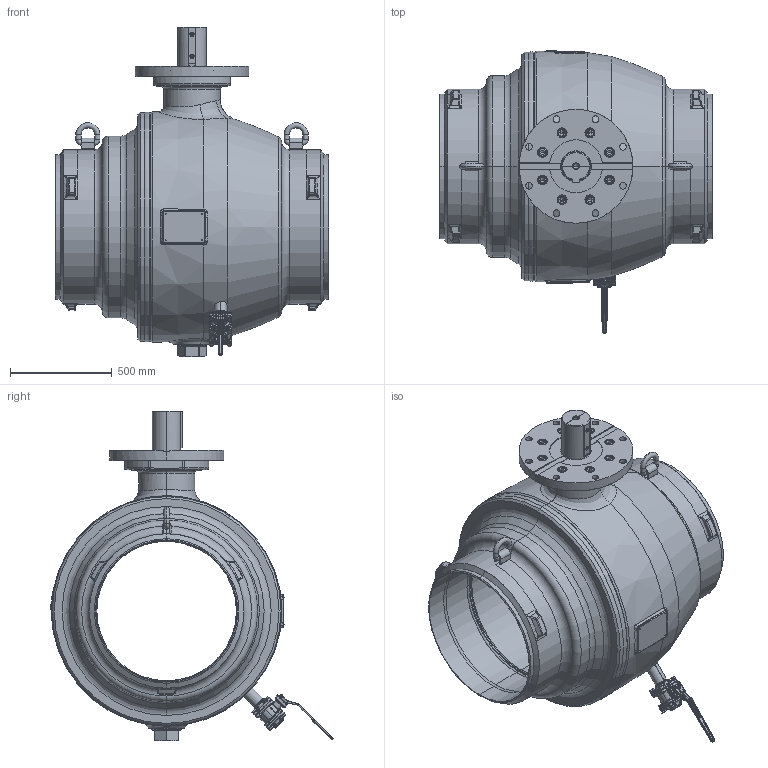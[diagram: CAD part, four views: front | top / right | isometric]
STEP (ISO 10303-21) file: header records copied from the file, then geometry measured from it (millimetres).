
FILE_DESCRIPTION((''),'2;1');
FILE_NAME('KHSVI_700_FR_WE_ENTL','2026-01-27T14:29:56',('schwaba'),('KLINGER'),'CREO PARAMETRIC BY PTC INC, 2023014','CREO PARAMETRIC BY PTC INC, 2023014','');
FILE_SCHEMA(('CONFIG_CONTROL_DESIGN'));
Products named in the file (1): KHSVI_700_FR_WE_ENTL
Bounding box: 1346 x 1387.91 x 1622 mm (x, y, z)
Volume: 329798371.3 mm3; surface area: 17989915.2 mm2
Topology: 5 solids, 8 shells, 3954 faces, 9589 edges, 5745 vertices
Faces by surface type: plane 1247, cylinder 1053, torus 563, bspline 550, cone 404, sphere 98, revolution 31, extrusion 8
Entity records: 236447 total; most frequent: CARTESIAN_POINT 148974, ORIENTED_EDGE 19064, DIRECTION 17479, EDGE_CURVE 9532, AXIS2_PLACEMENT_3D 7259, VERTEX_POINT 5745, EDGE_LOOP 4217, FACE_OUTER_BOUND 3954
